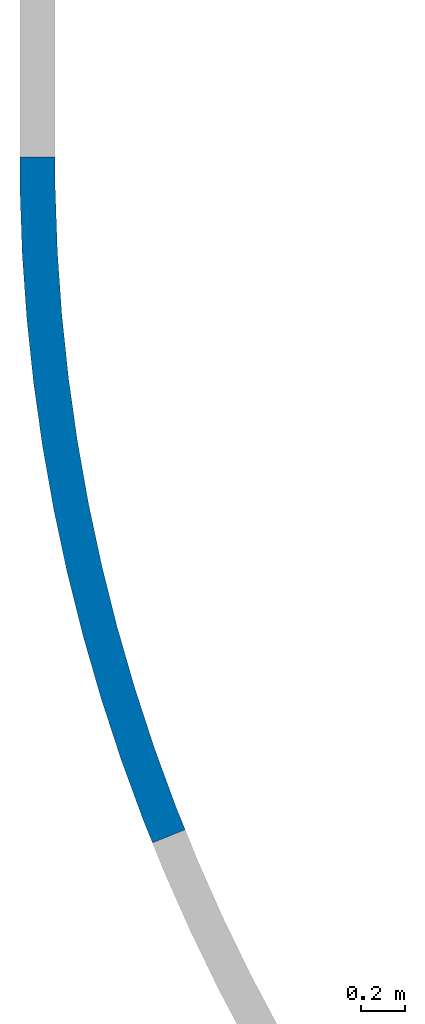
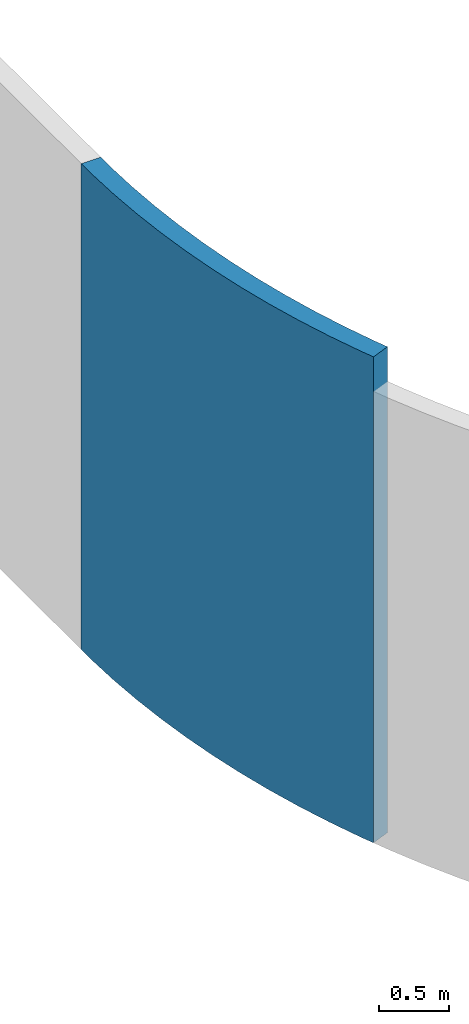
# One storey, part 1 of 3: 1 wall.
"""IFC4 building model written with IfcOpenShell, lengths in millimetres."""

from ifc_helpers import new_model, entity, si_unit, converted_unit, derived_unit, direction, frame, origin_with_axes, place, context, subcontext, project, spatial, polygons, material, constituent, constituent_set, type_object, element, save


model = new_model("IFC4")

# Units and contexts
model_context = context("Model", 3, precision=0.01, world=origin_with_axes(), true_north=direction((0.0, 1.0)))
body_context = subcontext(model_context, "Body", "Model", "MODEL_VIEW")
ifc_project = project(units=[si_unit("LENGTHUNIT", "METRE", prefix="MILLI"), si_unit("AREAUNIT", "SQUARE_METRE"), si_unit("VOLUMEUNIT", "CUBIC_METRE"), converted_unit("PLANEANGLEUNIT", "DEGREE", entity("IfcPlaneAngleMeasure", 0.0174532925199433), si_unit("PLANEANGLEUNIT", "RADIAN"), dimensions=[0, 0, 0, 0, 0, 0, 0]), converted_unit("TIMEUNIT", "Year", entity("IfcTimeMeasure", 31557600.0), si_unit("TIMEUNIT", "SECOND"), dimensions=[0, 0, 1, 0, 0, 0, 0]), si_unit("MASSUNIT", "GRAM", prefix="KILO"), si_unit("THERMODYNAMICTEMPERATUREUNIT", "DEGREE_CELSIUS"), si_unit("LUMINOUSINTENSITYUNIT", "LUMEN"), si_unit("ENERGYUNIT", "JOULE", prefix="MEGA"), derived_unit("THERMALCONDUCTANCEUNIT", [(si_unit("POWERUNIT", "WATT"), 1), (si_unit("LENGTHUNIT", "METRE"), -1), (si_unit("THERMODYNAMICTEMPERATUREUNIT", "KELVIN"), -1)]), derived_unit("SPECIFICHEATCAPACITYUNIT", [(si_unit("ENERGYUNIT", "JOULE"), 1), (si_unit("MASSUNIT", "GRAM", prefix="KILO"), -1), (si_unit("THERMODYNAMICTEMPERATUREUNIT", "KELVIN"), -1)]), derived_unit("MASSDENSITYUNIT", [(si_unit("MASSUNIT", "GRAM", prefix="KILO"), 1), (si_unit("VOLUMEUNIT", "CUBIC_METRE"), -1)])], contexts=[model_context])

# Site, building, storey
site_placement = place(None, origin_with_axes())
site = spatial("IfcSite", under=ifc_project, at=site_placement, Name="Exteriér", CompositionType="ELEMENT")
building_placement = place(site_placement, origin_with_axes())
building = spatial("IfcBuilding", under=site, at=building_placement, Name="Univerzitní lezecké centrum", CompositionType="ELEMENT")
storey_placement = place(building_placement, frame((0.0, 0.0, -3350.0), z_axis=(0.0, 0.0, 1.0), x_axis=(1.0, 0.0, 0.0)))
storey = spatial("IfcBuildingStorey", under=building, at=storey_placement, Name="1.PP", CompositionType="ELEMENT", Elevation=-3350.0)

# Wall
ifc_material = material(Name="Tepelná izolace - XPS - obvodová izolace")
ifc_constituent = constituent(ifc_material, Name="Tepelná izolace - XPS - obvodová izolace")
ifc_constituent_set = constituent_set(constituents=[ifc_constituent], Name="Obvodová tepelná izolace podzemní")
wall_type = type_object("IfcWallType", Name="Obvodová tepelná izolace podzemní 160", PredefinedType="NOTDEFINED")
wall_placement = place(storey_placement, frame((-5750.148351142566, -299.9999999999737, -570.0000000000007), z_axis=(0.0, 0.0, 1.0), x_axis=(0.0, -1.0, 0.0)))
element("IfcWall", 1, at=wall_placement, inside=storey, type_object=wall_type, material=ifc_constituent_set, Name="St02", PredefinedType="NOTDEFINED", context=body_context, shape_type="Tessellation", body=[
    polygons([(146.7397295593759, -160.0000000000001, 0.0), (146.7397295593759, -160.0000000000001, 4220.000000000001), (0.0, -160.0000000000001, 4220.000000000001), (0.0, -160.0000000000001, 0.0), (440.0384060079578, -149.7005185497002, 0.0), (440.0384060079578, -149.7005185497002, 4220.000000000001), (143.9313136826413, 0.0, 4220.000000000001), (0.0, 0.0, 4220.000000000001), (0.0, 0.0, 0.0), (143.9313136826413, 0.0, 0.0), (732.7949571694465, -129.1142445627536, 0.0), (732.7949571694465, -129.1142445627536, 4220.000000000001), (431.6166183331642, 10.10236218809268, 4220.000000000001), (431.6166183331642, 10.10236218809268, 0.0), (1024.648708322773, -98.26654023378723, 0.0), (1024.648708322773, -98.26654023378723, 4220.000000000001), (718.7701733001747, 30.29464050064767, 4220.000000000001), (718.7701733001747, 30.29464050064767, 0.0), (1315.240096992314, -57.19540979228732, 0.0), (1315.240096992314, -57.19540979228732, 4220.000000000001), (1005.038206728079, 60.55195814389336, 4220.000000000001), (1005.038206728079, 60.55195814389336, 0.0), (1604.211115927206, -5.95145268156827, 0.0), (1604.211115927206, -5.95145268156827, 4220.000000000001), (1290.068037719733, 100.8370382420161, 4220.000000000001), (1290.068037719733, 100.8370382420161, 0.0), (1891.205754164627, 55.40219877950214, 0.0), (1891.205754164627, 55.40219877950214, 4220.000000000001), (1573.50851083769, 151.1002497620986, 4220.000000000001), (1573.50851083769, 151.1002497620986, 0.0), (2175.87043563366, 126.7899571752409, 0.0), (2175.87043563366, 126.7899571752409, 4220.000000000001), (1855.01042872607, 211.2796686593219, 4220.000000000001), (1855.01042872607, 211.2796686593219, 0.0), (2457.854454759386, 208.1238731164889, 0.0), (2457.854454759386, 208.1238731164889, 4220.000000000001), (2134.226982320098, 281.301154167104, 4220.000000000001), (2134.226982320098, 281.301154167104, 0.0), (2736.810408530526, 299.3037435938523, 0.0), (2736.810408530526, 299.3037435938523, 4220.000000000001), (2410.814178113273, 361.0784401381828, 4220.000000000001), (2410.814178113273, 361.0784401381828, 0.0), (3012.394624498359, 400.2172354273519, 0.0), (3012.394624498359, 400.2172354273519, 4220.000000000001), (2684.431261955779, 450.5132413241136, 4220.000000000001), (2684.431261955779, 450.5132413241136, 0.0), (3115.623668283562, 442.2626264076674, 0.0), (3115.623668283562, 442.2626264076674, 4220.000000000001), (2954.741138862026, 549.4953744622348, 4220.000000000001), (2954.741138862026, 549.4953744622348, 0.0), (3055.994507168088, 590.7360689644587, 0.0), (3055.994507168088, 590.7360689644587, 4220.000000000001)], [[[1, 2, 3, 4]], [[5, 6, 2, 1]], [[2, 7, 8, 3]], [[4, 3, 8, 9]], [[10, 1, 4, 9]], [[11, 12, 6, 5]], [[6, 13, 7, 2]], [[14, 5, 1, 10]], [[7, 10, 9, 8]], [[15, 16, 12, 11]], [[12, 17, 13, 6]], [[18, 11, 5, 14]], [[13, 14, 10, 7]], [[19, 20, 16, 15]], [[16, 21, 17, 12]], [[22, 15, 11, 18]], [[17, 18, 14, 13]], [[23, 24, 20, 19]], [[20, 25, 21, 16]], [[26, 19, 15, 22]], [[21, 22, 18, 17]], [[27, 28, 24, 23]], [[24, 29, 25, 20]], [[30, 23, 19, 26]], [[25, 26, 22, 21]], [[31, 32, 28, 27]], [[28, 33, 29, 24]], [[34, 27, 23, 30]], [[29, 30, 26, 25]], [[35, 36, 32, 31]], [[32, 37, 33, 28]], [[38, 31, 27, 34]], [[33, 34, 30, 29]], [[39, 40, 36, 35]], [[36, 41, 37, 32]], [[42, 35, 31, 38]], [[37, 38, 34, 33]], [[43, 44, 40, 39]], [[40, 45, 41, 36]], [[46, 39, 35, 42]], [[41, 42, 38, 37]], [[47, 48, 44, 43]], [[44, 49, 45, 40]], [[50, 43, 39, 46]], [[45, 46, 42, 41]], [[47, 51, 52, 48]], [[48, 52, 49, 44]], [[51, 47, 43, 50]], [[49, 50, 46, 45]], [[52, 51, 50, 49]]], closed=True),
])

save(model, "model.ifc")
